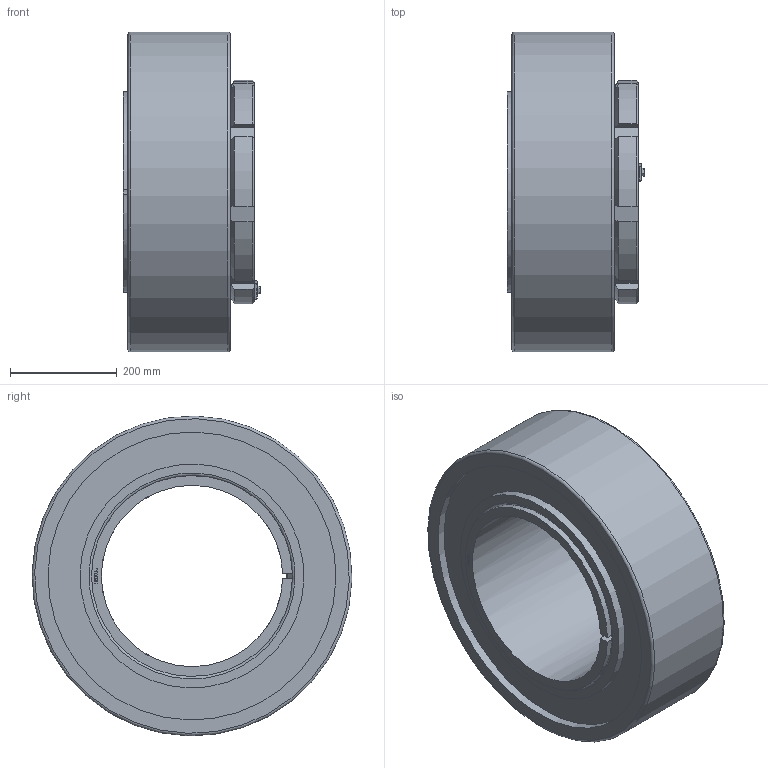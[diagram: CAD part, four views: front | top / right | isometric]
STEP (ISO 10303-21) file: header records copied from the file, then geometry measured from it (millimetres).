
FILE_DESCRIPTION( ( 'STEP AP203' ), ' ' );
FILE_NAME( 'p:/temp/worker_324/4592_4640/app_85_02016102820165554106297192d056f_000000_00_00_000000/format_0/BGL H 3172 TL+23172K.stp', '2016-10-28T18:16:58', ( '' ), ( '' ), ' ', 'PARTsolutions', ' ' );
FILE_SCHEMA( ( 'CONFIG_CONTROL_DESIGN' ) );
Length unit declared in the file: millimetre
Products named in the file (6): BGL H 3172 TL+23172K; _BGLH3172TLB; _BGL HM 3072; _BGLH3172TL+H-23172K; _BGL MS 3072part; _BGL MS 3072HHS
Assembly tree (5 placements, depth 2):
  BGL H 3172 TL+23172K
    _BGLH3172TLB
    _BGL HM 3072
    _BGLH3172TL+H-23172K
    _BGL MS 3072part
    _BGL MS 3072HHS
Bounding box: 258.05 x 599.79 x 599.79 mm (x, y, z)
Volume: 36054567.7 mm3; surface area: 1783852.5 mm2
Topology: 5 solids, 5 shells, 351 faces, 899 edges, 589 vertices
Faces by surface type: plane 230, cylinder 79, cone 38, torus 4
Full cylindrical faces by diameter (mm): 8 x9, 9 x1, 14.8 x1, 355 x1, 420 x2, 540 x2, 600 x1
Entity records: 10762 total; most frequent: CARTESIAN_POINT 2104, DIRECTION 1729, ORIENTED_EDGE 1726, EDGE_CURVE 863, VERTEX_POINT 586, AXIS2_PLACEMENT_3D 577, LINE 575, VECTOR 575
